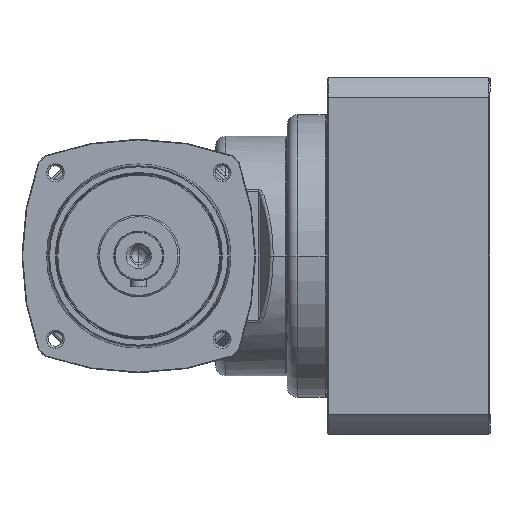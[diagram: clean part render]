
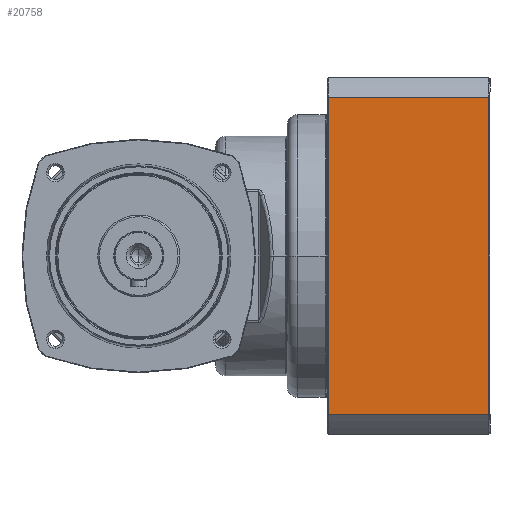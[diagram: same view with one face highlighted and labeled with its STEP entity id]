
A CAD part, left-side view. The second image highlights one B-rep face of the part: STEP entity #20758.
In plain terms, the highlighted planar face has unit normal (-1, 0, 0) as drawn and (0, -1, 0) by its records, which use the part's own axes.
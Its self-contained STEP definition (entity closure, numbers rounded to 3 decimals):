
#19614=DIRECTION('',(1.,0.,0.));
#19615=VECTOR('',#19614,154.961);
#19616=CARTESIAN_POINT('',(-77.481,-87.,
3.));
#19617=LINE('',#19616,#19615);
#19618=DIRECTION('',(0.,0.,1.));
#19619=VECTOR('',#19618,78.5);
#19620=CARTESIAN_POINT('',(-77.481,-87.,
3.));
#19621=LINE('',#19620,#19619);
#19622=DIRECTION('',(1.,0.,0.));
#19623=VECTOR('',#19622,154.961);
#19624=CARTESIAN_POINT('',(-77.481,-87.,
81.5));
#19625=LINE('',#19624,#19623);
#19626=DIRECTION('',(0.,0.,1.));
#19627=VECTOR('',#19626,78.5);
#19628=CARTESIAN_POINT('',(77.481,-87.,
3.));
#19629=LINE('',#19628,#19627);
#20323=CARTESIAN_POINT('',(-77.481,-87.,
81.5));
#20324=CARTESIAN_POINT('',(77.481,-87.,
81.5));
#20325=VERTEX_POINT('',#20323);
#20326=VERTEX_POINT('',#20324);
#20360=CARTESIAN_POINT('',(-77.481,-87.,3.));
#20362=VERTEX_POINT('',#20360);
#20365=CARTESIAN_POINT('',(77.481,-87.,
3.));
#20366=VERTEX_POINT('',#20365);
#20744=CARTESIAN_POINT('',(-87.,-87.,0.));
#20745=DIRECTION('',(0.,-1.,0.));
#20746=DIRECTION('',(1.,0.,0.));
#20747=AXIS2_PLACEMENT_3D('',#20744,#20745,#20746);
#20748=PLANE('',#20747);
#20749=ORIENTED_EDGE('',*,*,#20738,.F.);
#20751=ORIENTED_EDGE('',*,*,#20750,.T.);
#20753=ORIENTED_EDGE('',*,*,#20752,.T.);
#20755=ORIENTED_EDGE('',*,*,#20754,.F.);
#20756=EDGE_LOOP('',(#20749,#20751,#20753,#20755));
#20757=FACE_OUTER_BOUND('',#20756,.F.);
#20758=ADVANCED_FACE('',(#20757),#20748,.T.);
#20738=EDGE_CURVE('',#20362,#20366,#19617,.T.);
#20750=EDGE_CURVE('',#20362,#20325,#19621,.T.);
#20752=EDGE_CURVE('',#20325,#20326,#19625,.T.);
#20754=EDGE_CURVE('',#20366,#20326,#19629,.T.);
